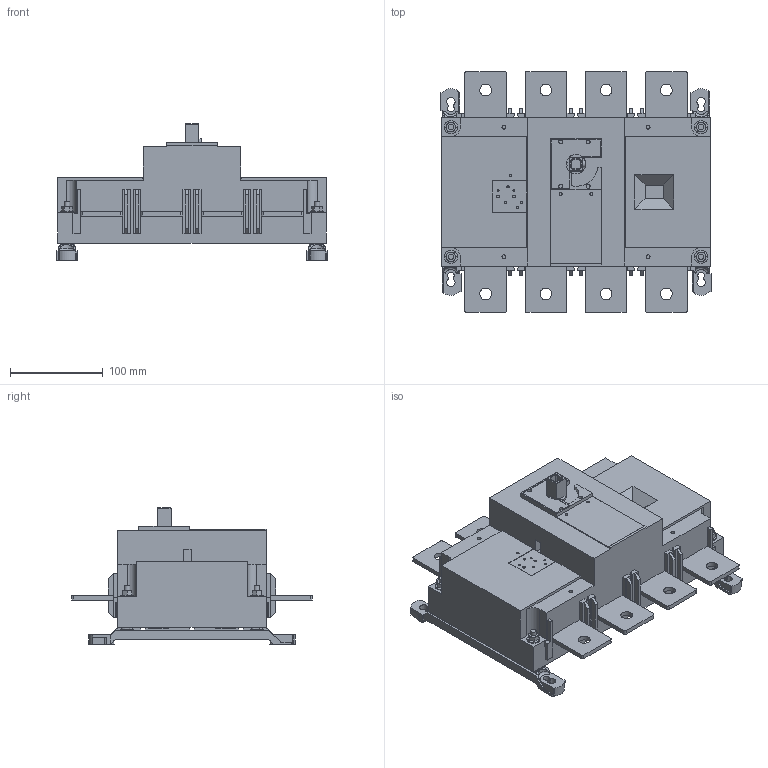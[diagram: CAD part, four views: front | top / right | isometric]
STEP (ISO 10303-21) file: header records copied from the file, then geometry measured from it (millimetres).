
FILE_DESCRIPTION(/* description */ (''),/* implementation_level */ '2;1');
FILE_NAME(/* name */ 'SIRCO_B5_4P_UL_400A.stp',/* time_stamp */ '2010-04-30T09:58:05+02:00',/* author */ (''),/* organization */ (''),/* preprocessor_version */ 'ST-DEVELOPER v11',/* originating_system */ 'SIEMENS UGS NX 6.0',/* authorisation */ '');
FILE_SCHEMA (('CONFIG_CONTROL_DESIGN'));
Length unit declared in the file: millimetre
Products named in the file (1): SIRCO_B5_4P_UL_400A
Bounding box: 292 x 260 x 147.6 mm (x, y, z)
Volume: 3969770.5 mm3; surface area: 288446 mm2
Topology: 15 solids, 15 shells, 906 faces, 2384 edges, 1567 vertices
Faces by surface type: plane 615, cylinder 217, cone 58, torus 16
Full cylindrical faces by diameter (mm): 2.1 x4, 2.5 x3, 3 x2, 3.2 x2, 4.2 x1, 4.25 x4, 4.3 x4, 5 x4, 6 x4, 6.2 x4, 6.3 x12, 6.6 x4, 7 x4, 7.95 x4, 8 x4, 8.4 x4, 12 x4, 12.7 x8, 14 x4, 21.15 x1, 21.25 x1
Entity records: 27343 total; most frequent: CARTESIAN_POINT 5142, DIRECTION 4472, ORIENTED_EDGE 4458, EDGE_CURVE 2229, LINE 1606, VECTOR 1606, VERTEX_POINT 1530, AXIS2_PLACEMENT_3D 1433
